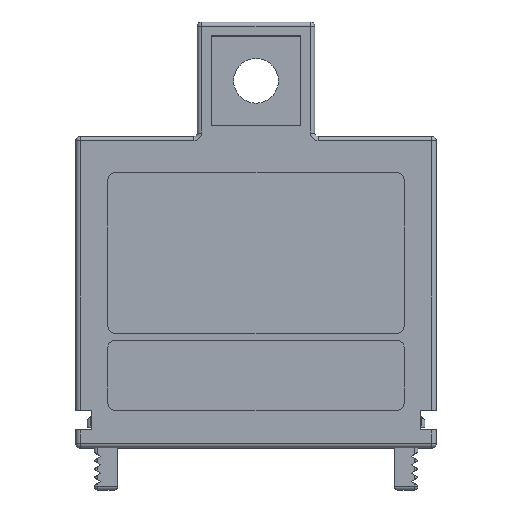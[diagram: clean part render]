
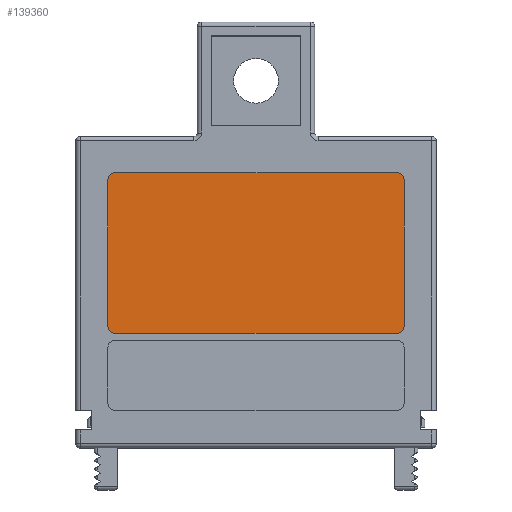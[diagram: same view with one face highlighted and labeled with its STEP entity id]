
A CAD part, top view. The second image highlights one B-rep face of the part: STEP entity #139360.
In plain terms, the highlighted planar face has unit normal (0, 0, 1).
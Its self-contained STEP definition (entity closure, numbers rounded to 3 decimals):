
#138610=CARTESIAN_POINT('',(1209.287,178.568,17.1));
#138620=DIRECTION('',(0.,0.,1.));
#138630=DIRECTION('',(1.,0.,0.));
#138640=AXIS2_PLACEMENT_3D('',#138610,#138620,#138630);
#138650=PLANE('',#138640);
#138660=CARTESIAN_POINT('',(1211.296,206.665,17.1));
#138670=DIRECTION('',(0.,0.,1.));
#138680=DIRECTION('',(1.,0.,0.));
#138690=AXIS2_PLACEMENT_3D('',#138660,#138670,#138680);
#138700=CIRCLE('',#138690,0.5);
#138710=CARTESIAN_POINT('',(1211.296,206.165,17.1));
#138720=VERTEX_POINT('',#138710);
#138730=CARTESIAN_POINT('',(1211.796,206.665,17.1));
#138740=VERTEX_POINT('',#138730);
#138750=EDGE_CURVE('',#138720,#138740,#138700,.T.);
#138760=ORIENTED_EDGE('',*,*,#138750,.T.);
#138770=CARTESIAN_POINT('',(1211.296,206.165,17.1));
#138780=DIRECTION('',(-1.,0.,0.));
#138790=VECTOR('',#138780,1.);
#138800=LINE('',#138770,#138790);
#138810=CARTESIAN_POINT('',(1191.096,206.165,17.1));
#138820=VERTEX_POINT('',#138810);
#138830=EDGE_CURVE('',#138720,#138820,#138800,.T.);
#138840=ORIENTED_EDGE('',*,*,#138830,.F.);
#138850=CARTESIAN_POINT('',(1191.096,206.665,17.1));
#138860=DIRECTION('',(0.,0.,1.));
#138870=DIRECTION('',(1.,0.,0.));
#138880=AXIS2_PLACEMENT_3D('',#138850,#138860,#138870);
#138890=CIRCLE('',#138880,0.5);
#138900=CARTESIAN_POINT('',(1190.596,206.665,17.1));
#138910=VERTEX_POINT('',#138900);
#138920=EDGE_CURVE('',#138910,#138820,#138890,.T.);
#138930=ORIENTED_EDGE('',*,*,#138920,.T.);
#138940=CARTESIAN_POINT('',(1190.596,206.665,17.1));
#138950=DIRECTION('',(0.,1.,0.));
#138960=VECTOR('',#138950,1.);
#138970=LINE('',#138940,#138960);
#138980=CARTESIAN_POINT('',(1190.596,217.165,17.1));
#138990=VERTEX_POINT('',#138980);
#139000=EDGE_CURVE('',#138910,#138990,#138970,.T.);
#139010=ORIENTED_EDGE('',*,*,#139000,.F.);
#139020=CARTESIAN_POINT('',(1191.096,217.165,17.1));
#139030=DIRECTION('',(0.,0.,1.));
#139040=DIRECTION('',(1.,0.,0.));
#139050=AXIS2_PLACEMENT_3D('',#139020,#139030,#139040);
#139060=CIRCLE('',#139050,0.5);
#139070=CARTESIAN_POINT('',(1191.096,217.665,17.1));
#139080=VERTEX_POINT('',#139070);
#139090=EDGE_CURVE('',#139080,#138990,#139060,.T.);
#139100=ORIENTED_EDGE('',*,*,#139090,.T.);
#139110=CARTESIAN_POINT('',(1191.096,217.665,17.1));
#139120=DIRECTION('',(1.,0.,0.));
#139130=VECTOR('',#139120,1.);
#139140=LINE('',#139110,#139130);
#139150=CARTESIAN_POINT('',(1211.296,217.665,17.1));
#139160=VERTEX_POINT('',#139150);
#139170=EDGE_CURVE('',#139080,#139160,#139140,.T.);
#139180=ORIENTED_EDGE('',*,*,#139170,.F.);
#139190=CARTESIAN_POINT('',(1211.296,217.165,17.1));
#139200=DIRECTION('',(0.,0.,1.));
#139210=DIRECTION('',(1.,0.,0.));
#139220=AXIS2_PLACEMENT_3D('',#139190,#139200,#139210);
#139230=CIRCLE('',#139220,0.5);
#139240=CARTESIAN_POINT('',(1211.796,217.165,17.1));
#139250=VERTEX_POINT('',#139240);
#139260=EDGE_CURVE('',#139250,#139160,#139230,.T.);
#139270=ORIENTED_EDGE('',*,*,#139260,.T.);
#139280=CARTESIAN_POINT('',(1211.796,178.568,17.1));
#139290=DIRECTION('',(-0.,-1.,0.));
#139300=VECTOR('',#139290,1.);
#139310=LINE('',#139280,#139300);
#139320=EDGE_CURVE('',#139250,#138740,#139310,.T.);
#139330=ORIENTED_EDGE('',*,*,#139320,.F.);
#139340=EDGE_LOOP('',(#139330,#139270,#139180,#139100,#139010,#138930,
#138840,#138760));
#139350=FACE_OUTER_BOUND('',#139340,.T.);
#139360=ADVANCED_FACE('',(#139350),#138650,.T.);
